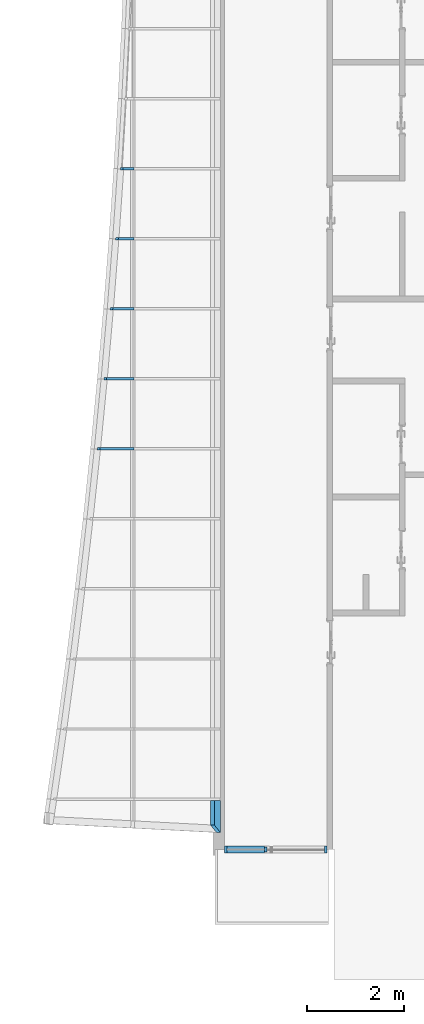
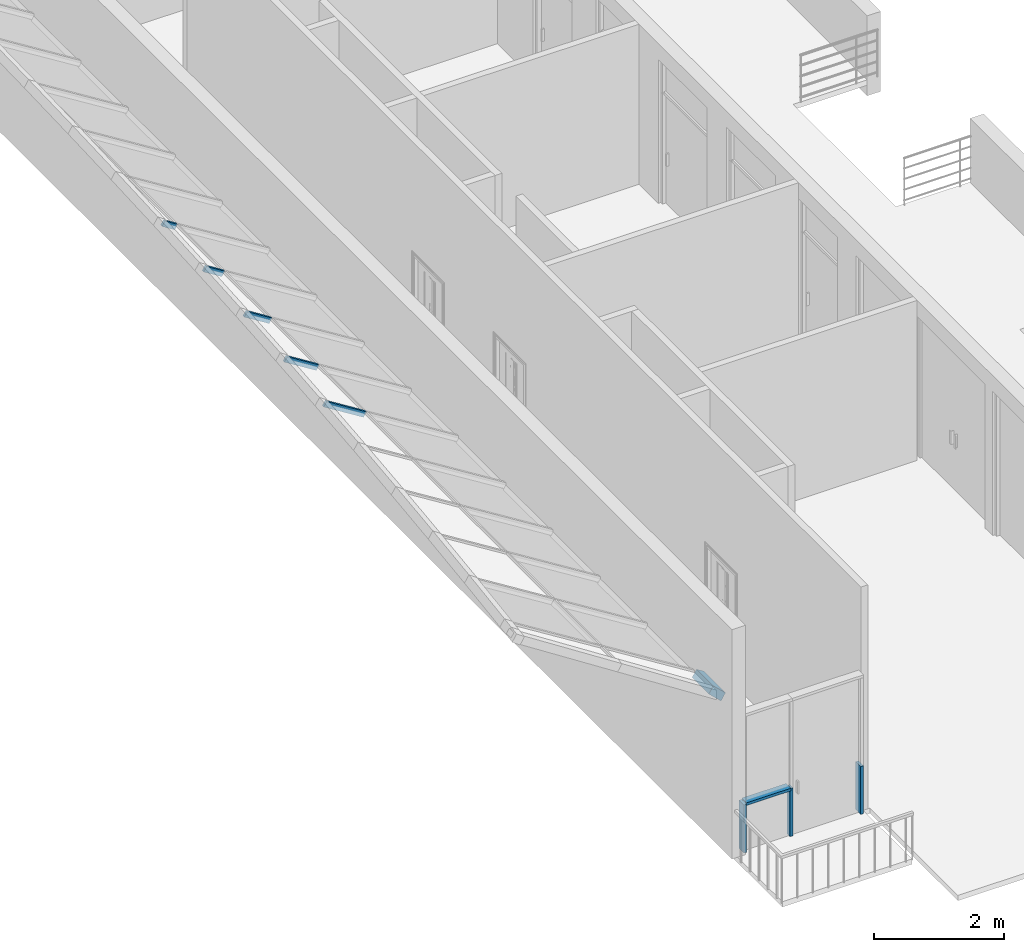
# One storey, part 9 of 33: 10 members, 2 elements without a shape of their own.
"""IFC2X3 building model written with IfcOpenShell, lengths in millimetres."""

import ifcopenshell
import ifcopenshell.guid

model = None  # the IFC model being written
_history = None  # IfcOwnerHistory: only IFC2X3 demands one
_inside = {}  # id of a spatial element -> (the spatial element, [elements in it])
_under = {}  # id of a project, library or spatial element -> (it, [spatial elements below it])
_declared = {}  # id of a project -> (the project, [libraries it declares])
_typed = {}  # id of a type object -> (the type object, [elements of that type])
_made_of = {}  # id of a material, layer set ... -> (it, [elements and type objects made of it])


def new_model(schema):
    """Start an empty IFC model of exactly this schema.

    Asked for "IFC4X3", IfcOpenShell would pick the latest addendum, in which some entities
    have other attributes; the version numbers below select the first issue.
    IFC2X3 requires an IfcOwnerHistory on every rooted entity: one is made here for all.
    """
    global model, _history
    if schema == "IFC4X3":
        model = ifcopenshell.file(schema_version=(4, 3, 0, 0))
    else:
        model = ifcopenshell.file(schema=schema)
    _inside.clear()
    _under.clear()
    _declared.clear()
    _typed.clear()
    _made_of.clear()
    _history = None
    if model.schema == "IFC2X3":
        org = make("IfcOrganization", Name="unknown")
        user = make(
            "IfcPersonAndOrganization",
            ThePerson=make("IfcPerson", FamilyName="unknown"),
            TheOrganization=org,
        )
        app = make(
            "IfcApplication",
            ApplicationDeveloper=org,
            Version="unknown",
            ApplicationFullName="unknown",
            ApplicationIdentifier="unknown",
        )
        _history = make(
            "IfcOwnerHistory",
            OwningUser=user,
            OwningApplication=app,
            ChangeAction="ADDED",
            CreationDate=0,
        )
    return model


def make(cls, **values):
    """One entity of the class cls with the attributes given. An attribute that is None is left unset."""
    return model.create_entity(
        cls, **{name: value for name, value in values.items() if value is not None}
    )


def entity(cls, *values):
    """Any entity or typed value of the class cls, its attributes in the order of the schema. None: left unset."""
    e = model.create_entity(cls)
    for i, value in enumerate(values):
        if value is not None:
            e[i] = value
    return e


def rooted(cls, **values):
    """An entity with a GlobalId (a new one), such as an element, a storey or a relation."""
    return make(cls, GlobalId=ifcopenshell.guid.new(), OwnerHistory=_history, **values)


def si_unit(unit_type, name, prefix=None):
    """IfcSIUnit, for example si_unit("LENGTHUNIT", "METRE", prefix="MILLI")."""
    return make("IfcSIUnit", UnitType=unit_type, Prefix=prefix, Name=name)


def converted_unit(unit_type, name, factor, base, dimensions=None, offset=None):
    """IfcConversionBasedUnit, such as the inch: factor (a typed value) times the base unit."""
    return make(
        "IfcConversionBasedUnit"
        if offset is None
        else "IfcConversionBasedUnitWithOffset",
        ConversionOffset=offset,
        Dimensions=None
        if dimensions is None
        else entity("IfcDimensionalExponents", *dimensions),
        UnitType=unit_type,
        Name=name,
        ConversionFactor=make(
            "IfcMeasureWithUnit", ValueComponent=factor, UnitComponent=base
        ),
    )


def derived_unit(unit_type, elements):
    """IfcDerivedUnit: a product of units, each with its exponent."""
    return make(
        "IfcDerivedUnit",
        Elements=[
            make("IfcDerivedUnitElement", Unit=unit, Exponent=power)
            for unit, power in elements
        ],
        UnitType=unit_type,
    )


def assignment(units):
    """IfcUnitAssignment: the units of a project."""
    return None if units is None else make("IfcUnitAssignment", Units=units)


def point(xyz):
    """IfcCartesianPoint."""
    return None if xyz is None else make("IfcCartesianPoint", Coordinates=xyz)


def direction(xyz):
    """IfcDirection."""
    return None if xyz is None else make("IfcDirection", DirectionRatios=xyz)


def frame(location, z_axis=None, x_axis=None):
    """IfcAxis2Placement3D, a coordinate frame: its origin and axes. An axis left out is left unset."""
    return make(
        "IfcAxis2Placement3D",
        Location=point(location),
        Axis=direction(z_axis),
        RefDirection=direction(x_axis),
    )


def frame_2d(location, x_axis=None):
    """IfcAxis2Placement2D, a coordinate frame in the plane: its origin and x axis."""
    return make(
        "IfcAxis2Placement2D", Location=point(location), RefDirection=direction(x_axis)
    )


def origin():
    """The frame at (0, 0, 0) with its axes left unset."""
    return frame((0.0, 0.0, 0.0))


def origin_2d_with_axis():
    """The frame at (0, 0) in the plane with the x axis (1, 0) written out."""
    return frame_2d((0.0, 0.0), x_axis=(1.0, 0.0))


def place(relative_to, where):
    """IfcLocalPlacement: puts the frame where relative to a parent placement (None: the world)."""
    return make(
        "IfcLocalPlacement", PlacementRelTo=relative_to, RelativePlacement=where
    )


def context(
    kind, dimensions, precision=None, world=None, true_north=None, identifier=None
):
    """IfcGeometricRepresentationContext, for example the 3D "Model" context."""
    return make(
        "IfcGeometricRepresentationContext",
        ContextIdentifier=identifier,
        ContextType=kind,
        CoordinateSpaceDimension=dimensions,
        Precision=precision,
        WorldCoordinateSystem=world,
        TrueNorth=true_north,
    )


def subcontext(parent, identifier, kind, view, scale=None):
    """IfcGeometricRepresentationSubContext, for example "Body" below "Model"."""
    return make(
        "IfcGeometricRepresentationSubContext",
        ContextIdentifier=identifier,
        ContextType=kind,
        ParentContext=parent,
        TargetScale=scale,
        TargetView=view,
    )


def project(units=None, contexts=None):
    """IfcProject with its units and contexts."""
    return rooted(
        "IfcProject",
        Name="project",
        RepresentationContexts=contexts,
        UnitsInContext=assignment(units),
    )


def spatial(cls, under=None, at=None, **own):
    """A site, building, storey or space (cls), placed at a placement, below another one or the project."""
    s = rooted(cls, ObjectPlacement=at, **own)
    if under is not None:
        _under.setdefault(under.id(), (under, []))[1].append(s)
    return s


def polyline(points):
    """IfcPolyline through the points."""
    return make("IfcPolyline", Points=[point(p) for p in points])


def profile(cls, at=None, kind="AREA", **sizes):
    """A parametric profile (cls). Its sizes go by their IFC names, for example OverallWidth=200.0."""
    return make(cls, ProfileType=kind, Position=at, **sizes)


def rectangle(**sizes):
    """IfcRectangleProfileDef."""
    return profile("IfcRectangleProfileDef", **sizes)


def extrude(swept, where, along, depth):
    """IfcExtrudedAreaSolid: the profile swept, set in the frame where, extruded along a direction by depth."""
    return make(
        "IfcExtrudedAreaSolid",
        SweptArea=swept,
        Position=where,
        ExtrudedDirection=direction(along),
        Depth=depth,
    )


def clip(a, b, op="DIFFERENCE"):
    """IfcBooleanClippingResult: the solid a cut by the half space b."""
    return make(
        "IfcBooleanClippingResult", Operator=op, FirstOperand=a, SecondOperand=b
    )


def halfspace(plane, agree):
    """IfcHalfSpaceSolid: all space on one side of the plane z = 0 of the frame plane."""
    return make(
        "IfcHalfSpaceSolid",
        BaseSurface=make("IfcPlane", Position=plane),
        AgreementFlag=agree,
    )


def bounded_halfspace(plane, agree, where, boundary):
    """IfcPolygonalBoundedHalfSpace: a half space limited to a polygon's prism."""
    return make(
        "IfcPolygonalBoundedHalfSpace",
        BaseSurface=make("IfcPlane", Position=plane),
        AgreementFlag=agree,
        Position=where,
        PolygonalBoundary=boundary,
    )


def shape(context_of_items, identifier, shape_type, items):
    """IfcShapeRepresentation: the items that make up one representation, for example the "Body"."""
    return make(
        "IfcShapeRepresentation",
        ContextOfItems=context_of_items,
        RepresentationIdentifier=identifier,
        RepresentationType=shape_type,
        Items=items,
    )


def source(mapping_origin, context_of_items, identifier, shape_type, items):
    """IfcRepresentationMap: a shape defined once, which mapped items show again and again."""
    return make(
        "IfcRepresentationMap",
        MappingOrigin=mapping_origin,
        MappedRepresentation=shape(context_of_items, identifier, shape_type, items),
    )


def transform(
    local_origin,
    x_axis=None,
    y_axis=None,
    z_axis=None,
    scale=None,
    scale2=None,
    scale3=None,
    uniform=True,
):
    """IfcCartesianTransformationOperator3D, or its non-uniform kind. x_axis, y_axis, z_axis: its Axis1, 2, 3."""
    if uniform:
        return make(
            "IfcCartesianTransformationOperator3D",
            Axis1=direction(x_axis),
            Axis2=direction(y_axis),
            LocalOrigin=point(local_origin),
            Scale=scale,
            Axis3=direction(z_axis),
        )
    return make(
        "IfcCartesianTransformationOperator3DnonUniform",
        Axis1=direction(x_axis),
        Axis2=direction(y_axis),
        LocalOrigin=point(local_origin),
        Scale=scale,
        Axis3=direction(z_axis),
        Scale2=scale2,
        Scale3=scale3,
    )


def mapped(mapping_source, mapping_target):
    """IfcMappedItem: shows the shape of a source again, moved by a transform."""
    return make(
        "IfcMappedItem", MappingSource=mapping_source, MappingTarget=mapping_target
    )


def material(Name=None, Category=None):
    """IfcMaterial."""
    return make("IfcMaterial", Name=Name, Category=Category)


def made_of(thing, what):
    """Note that an element or type object is made of a material, layer set ...; save() writes the relation."""
    if what is not None:
        _made_of.setdefault(what.id(), (what, []))[1].append(thing)
    return thing


def type_object(cls, material=None, **own):
    """A type object (cls), such as IfcWallType, which elements share."""
    return made_of(rooted(cls, **own), material)


def type_shapes(of_type, sources):
    """Give a type object the sources (RepresentationMaps) that its elements show as mapped items."""
    of_type.RepresentationMaps = sources


def element(
    cls,
    number,
    at=None,
    inside=None,
    cuts=None,
    type_object=None,
    material=None,
    context=None,
    identifier="Body",
    shape_type=None,
    held_by="IfcProductDefinitionShape",
    body=None,
    shapes=None,
    **own,
):
    """One element of the class cls, such as IfcWall. Its Tag is "e" and its number.

    at: its placement. inside: the storey or other place that contains it. cuts: it is an
    opening in that element (IfcRelVoidsElement). A single representation is given by context,
    identifier, shape_type and body (its items); several are given by shapes. held_by: the class
    of the entity that holds the representations. save() writes the other relations.
    """
    e = rooted(cls, Tag="e%d" % number, ObjectPlacement=at, **own)
    if body is not None:
        shapes = [shape(context, identifier, shape_type, body)]
    if shapes is not None:
        e.Representation = make(held_by, Representations=shapes)
    if inside is not None:
        _inside.setdefault(inside.id(), (inside, []))[1].append(e)
    if cuts is not None:
        rooted(
            "IfcRelVoidsElement", RelatingBuildingElement=cuts, RelatedOpeningElement=e
        )
    if type_object is not None:
        _typed.setdefault(type_object.id(), (type_object, []))[1].append(e)
    return made_of(e, material)


def aggregate(whole, parts):
    """IfcRelAggregates: a whole, such as a stair, and the parts it consists of."""
    return rooted("IfcRelAggregates", RelatingObject=whole, RelatedObjects=parts)


def save(model, path):
    """Write the relations noted so far, then the file.

    IfcRelAggregates (storeys below a building ...), IfcRelContainedInSpatialStructure (elements
    in a storey), IfcRelDefinesByType, IfcRelAssociatesMaterial and IfcRelDeclares: one each for
    every whole, place, type object, material and project.
    """
    for whole, parts in _under.values():
        aggregate(whole, parts)
    for where, things in _inside.values():
        rooted(
            "IfcRelContainedInSpatialStructure",
            RelatedElements=things,
            RelatingStructure=where,
        )
    for kind, things in _typed.values():
        rooted("IfcRelDefinesByType", RelatedObjects=things, RelatingType=kind)
    for what, things in _made_of.values():
        rooted("IfcRelAssociatesMaterial", RelatedObjects=things, RelatingMaterial=what)
    for by, libraries in _declared.values():
        rooted("IfcRelDeclares", RelatingContext=by, RelatedDefinitions=libraries)
    model.write(path)


model = new_model("IFC2X3")

# Units and contexts
model_context = context("Model", 3, precision=0.01, world=origin(), true_north=direction((6.12303176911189e-17, 1.0)))
body_context = subcontext(model_context, "Body", "Model", "MODEL_VIEW")
ifc_project = project(units=[si_unit("LENGTHUNIT", "METRE", prefix="MILLI"), si_unit("AREAUNIT", "SQUARE_METRE"), si_unit("VOLUMEUNIT", "CUBIC_METRE"), converted_unit("PLANEANGLEUNIT", "DEGREE", entity("IfcRatioMeasure", 0.0174532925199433), si_unit("PLANEANGLEUNIT", "RADIAN"), dimensions=[0, 0, 0, 0, 0, 0, 0]), si_unit("MASSUNIT", "GRAM", prefix="KILO"), derived_unit("MASSDENSITYUNIT", [(si_unit("MASSUNIT", "GRAM", prefix="KILO"), 1), (si_unit("LENGTHUNIT", "METRE"), -3)]), si_unit("TIMEUNIT", "SECOND"), si_unit("FREQUENCYUNIT", "HERTZ"), si_unit("THERMODYNAMICTEMPERATUREUNIT", "DEGREE_CELSIUS"), derived_unit("THERMALTRANSMITTANCEUNIT", [(si_unit("MASSUNIT", "GRAM", prefix="KILO"), 1), (si_unit("THERMODYNAMICTEMPERATUREUNIT", "KELVIN"), -1), (si_unit("TIMEUNIT", "SECOND"), -3)]), derived_unit("VOLUMETRICFLOWRATEUNIT", [(si_unit("LENGTHUNIT", "METRE"), 3), (si_unit("TIMEUNIT", "SECOND"), -1)]), si_unit("ELECTRICCURRENTUNIT", "AMPERE"), si_unit("ELECTRICVOLTAGEUNIT", "VOLT"), si_unit("POWERUNIT", "WATT"), si_unit("FORCEUNIT", "NEWTON", prefix="KILO"), si_unit("ILLUMINANCEUNIT", "LUX"), si_unit("LUMINOUSFLUXUNIT", "LUMEN"), si_unit("LUMINOUSINTENSITYUNIT", "CANDELA"), derived_unit("USERDEFINED", [(si_unit("MASSUNIT", "GRAM", prefix="KILO"), -1), (si_unit("LENGTHUNIT", "METRE"), -2), (si_unit("TIMEUNIT", "SECOND"), 3), (si_unit("LUMINOUSFLUXUNIT", "LUMEN"), 1)]), derived_unit("LINEARVELOCITYUNIT", [(si_unit("LENGTHUNIT", "METRE"), 1), (si_unit("TIMEUNIT", "SECOND"), -1)]), si_unit("PRESSUREUNIT", "PASCAL"), derived_unit("USERDEFINED", [(si_unit("LENGTHUNIT", "METRE"), -2), (si_unit("MASSUNIT", "GRAM", prefix="KILO"), 1), (si_unit("TIMEUNIT", "SECOND"), -2)])], contexts=[model_context])

# Site, building, storey
site_placement = place(None, origin())
site = spatial("IfcSite", under=ifc_project, at=site_placement, Name="表面", CompositionType="ELEMENT")
building_placement = place(site_placement, origin())
building = spatial("IfcBuilding", under=site, at=building_placement, CompositionType="ELEMENT")
storey_placement = place(building_placement, frame((0.0, 0.0, 6000.0)))
storey = spatial("IfcBuildingStorey", under=building, at=storey_placement, Name="3F", CompositionType="ELEMENT", Elevation=6000.00000000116)

# Curtain wall, members
curtain_wall_type_1 = type_object("IfcCurtainWallType", Name="幕墙:幕墙 2", PredefinedType="NOTDEFINED")
curtain_wall_1_placement = place(storey_placement, frame((0.0, 0.0, -6000.0)))
curtain_wall_1 = element("IfcCurtainWall", 1, at=curtain_wall_1_placement, inside=storey, type_object=curtain_wall_type_1, Name="幕墙:幕墙 2", ObjectType="幕墙:幕墙 2")
ifc_material_1 = material(Name="金属 - 铝")
member_type_1 = type_object("IfcMemberType", Name="50 x 150mm", PredefinedType="MEMBER")
shared_shape_1 = source(origin(), body_context, "Body", "SweptSolid", [
    extrude(rectangle(XDim=150.0, YDim=50.0, at=origin_2d_with_axis()), frame((-25.0, 0.0, -900.0), z_axis=(0.0, 0.0, 1.0), x_axis=(0.0, -1.0, 0.0)), (0.0, 0.0, 1.0), 900.0),
])
type_shapes(member_type_1, [shared_shape_1])
member_1_placement = place(storey_placement, frame((-12190.2499126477, -29416.868426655, 0.0), z_axis=(0.0, 0.0, -1.0), x_axis=(1.0, 0.0, 0.0)))
member_1 = element("IfcMember", 2, at=member_1_placement, type_object=member_type_1, material=ifc_material_1, Name="矩形竖梃:50 x 150mm", ObjectType="50 x 150mm", context=body_context, shape_type="MappedRepresentation", body=[
    mapped(shared_shape_1, transform((0.0, 0.0, 0.0), scale=1.0)),
])
member_type_2 = type_object("IfcMemberType", Name="50 x 100mm", PredefinedType="MEMBER")
shared_shape_2 = source(origin(), body_context, "Body", "SweptSolid", [
    extrude(rectangle(XDim=100.0, YDim=50.0, at=origin_2d_with_axis()), frame((0.0, 0.0, -900.0), z_axis=(0.0, 0.0, 1.0), x_axis=(0.0, -1.0, 0.0)), (0.0, 0.0, 1.0), 900.0),
])
type_shapes(member_type_2, [shared_shape_2])
member_2_placement = place(storey_placement, frame((-13450.2499126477, -29416.868426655, 0.0), z_axis=(0.0, 0.0, -1.0), x_axis=(1.0, 0.0, 0.0)))
member_2 = element("IfcMember", 3, at=member_2_placement, type_object=member_type_2, material=ifc_material_1, Name="矩形竖梃:50 x 100mm", ObjectType="50 x 100mm", context=body_context, shape_type="MappedRepresentation", body=[
    mapped(shared_shape_2, transform((0.0, 0.0, 0.0), scale=1.0)),
])
member_type_3 = type_object("IfcMemberType", Name="50 x 150mm", PredefinedType="MEMBER")
shared_shape_3 = source(origin(), body_context, "Body", "SweptSolid", [
    extrude(rectangle(XDim=150.0, YDim=50.0, at=origin_2d_with_axis()), frame((-25.0, 0.0, -900.0), z_axis=(0.0, 0.0, 1.0), x_axis=(0.0, -1.0, 0.0)), (0.0, 0.0, 1.0), 900.0),
])
type_shapes(member_type_3, [shared_shape_3])
member_3_placement = place(storey_placement, frame((-14310.2499126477, -29416.868426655, 900.0), z_axis=(0.0, 0.0, 1.0), x_axis=(-1.0, 0.0, 0.0)))
member_3 = element("IfcMember", 4, at=member_3_placement, type_object=member_type_3, material=ifc_material_1, Name="矩形竖梃:50 x 150mm", ObjectType="50 x 150mm", context=body_context, shape_type="MappedRepresentation", body=[
    mapped(shared_shape_3, transform((0.0, 0.0, 0.0), scale=1.0)),
])
member_type_4 = type_object("IfcMemberType", Name="50 x 150mm", PredefinedType="MEMBER")
shared_shape_4 = source(origin(), body_context, "Body", "SweptSolid", [
    extrude(rectangle(XDim=150.0, YDim=50.0, at=origin_2d_with_axis()), frame((0.0, 0.0, -785.0), z_axis=(0.0, 0.0, 1.0), x_axis=(0.0, -1.0, 0.0)), (0.0, 0.0, 1.0), 784.999999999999),
])
type_shapes(member_type_4, [shared_shape_4])
member_4_placement = place(storey_placement, frame((-13475.2499126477, -29416.868426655, 900.0), z_axis=(1.0, 0.0, 0.0), x_axis=(0.0, 0.0, 1.0)))
member_4 = element("IfcMember", 5, at=member_4_placement, type_object=member_type_4, material=ifc_material_1, Name="矩形竖梃:50 x 150mm", ObjectType="50 x 150mm", context=body_context, shape_type="MappedRepresentation", body=[
    mapped(shared_shape_4, transform((0.0, 0.0, 0.0), scale=1.0)),
])
aggregate(curtain_wall_1, [member_1, member_2, member_3, member_4])

curtain_wall_type_2 = type_object("IfcCurtainWallType", Name="幕墙系统:1450 x 2100mm", PredefinedType="NOTDEFINED")
curtain_wall_2_placement = place(storey_placement, frame((0.0, 0.0, -6000.0)))
curtain_wall_2 = element("IfcCurtainWall", 6, at=curtain_wall_2_placement, inside=storey, type_object=curtain_wall_type_2, Name="幕墙系统:1450 x 2100mm", ObjectType="幕墙系统:1450 x 2100mm")
ifc_material_2 = material(Name="木质 - 木材")
member_type_5 = type_object("IfcMemberType", Name="200 x 150mm", PredefinedType="MEMBER")
shared_shape_5 = source(origin(), body_context, "Body", "Clipping", [
    clip(extrude(rectangle(XDim=150.0, YDim=150.0, at=origin_2d_with_axis()), frame((-75.0, 0.0, -670.970519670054), z_axis=(0.0, 0.0, 1.0), x_axis=(0.0, -1.0, 0.0)), (0.0, 0.0, 1.0), 670.970519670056), halfspace(frame((0.0, -304.8, 0.0), z_axis=(-0.722634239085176, 0.0, 0.691230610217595), x_axis=(-0.691230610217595, 0.0, -0.722634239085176)), False)),
])
type_shapes(member_type_5, [shared_shape_5])
member_5_placement = place(storey_placement, frame((-14430.2499126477, -29066.868426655, 2713.21784202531), z_axis=(0.0, -1.0, 0.0), x_axis=(0.848048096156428, 0.0, -0.529919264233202)))
member_5 = element("IfcMember", 7, at=member_5_placement, type_object=member_type_5, material=ifc_material_2, Name="矩形竖梃:200 x 150mm", ObjectType="200 x 150mm", context=body_context, shape_type="MappedRepresentation", body=[
    mapped(shared_shape_5, transform((0.0, 0.0, 0.0), scale=1.0)),
])
member_type_6 = type_object("IfcMemberType", Name="50 x 100mm", PredefinedType="MEMBER")
shared_shape_6 = source(origin(), body_context, "Body", "Clipping", [
    clip(clip(extrude(rectangle(XDim=100.0, YDim=50.0, at=origin_2d_with_axis()), frame((0.0, 0.0, -413.770527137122), z_axis=(0.0, 0.0, 1.0), x_axis=(0.0, -1.0, 0.0)), (0.0, 0.0, 1.0), 265.309430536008), bounded_halfspace(frame((11.3589420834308, 75.0, -149.571510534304), z_axis=(-0.0811339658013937, 0.0, 0.996703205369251), x_axis=(0.996703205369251, 0.0, 0.0811339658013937)), False, frame((0.0, 0.0, -413.770527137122), z_axis=(0.0, 0.0, 1.0), x_axis=(0.0, -1.0, 0.0)), polyline([(-50.0, 25.0), (-50.0, 11.3589420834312), (50.0, 11.3589420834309), (50.0, 25.0), (-50.0, 25.0)]))), bounded_halfspace(frame((-1439.45287942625, 75.0, -251.837209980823), z_axis=(-0.0703141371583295, 0.0, 0.997524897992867), x_axis=(0.997524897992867, 0.0, 0.0703141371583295)), False, frame((0.0, 0.0, -413.770527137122), z_axis=(0.0, 0.0, 1.0), x_axis=(0.0, -1.0, 0.0)), polyline([(-50.0, 11.358942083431), (-50.0, -25.0), (50.0, -25.0), (50.0, 11.3589420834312), (-50.0, 11.358942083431)]))),
])
type_shapes(member_type_6, [shared_shape_6])
placement = place(building_placement, frame((0.0, 0.0, 9000.0)))
member_6_placement = place(placement, frame((-16562.0482223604, -15320.8979069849, 1045.31327021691), z_axis=(-0.848048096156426, 0.0, 0.529919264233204), x_axis=(0.0, -1.0, 0.0)))
member_6 = element("IfcMember", 8, at=member_6_placement, type_object=member_type_6, material=ifc_material_1, Name="矩形竖梃:50 x 100mm", ObjectType="50 x 100mm", context=body_context, shape_type="MappedRepresentation", body=[
    mapped(shared_shape_6, transform((0.0, 0.0, 0.0), scale=1.0)),
])
member_type_7 = type_object("IfcMemberType", Name="50 x 100mm", PredefinedType="MEMBER")
shared_shape_7 = source(origin(), body_context, "Body", "Clipping", [
    clip(clip(extrude(rectangle(XDim=100.0, YDim=50.0, at=origin_2d_with_axis()), frame((0.0, 0.0, -531.803909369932), z_axis=(0.0, 0.0, 1.0), x_axis=(0.0, -1.0, 0.0)), (0.0, 0.0, 1.0), 383.47423162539), bounded_halfspace(frame((12.9813634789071, 75.0, -149.439441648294), z_axis=(-0.091945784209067, 0.0, 0.995764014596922), x_axis=(0.995764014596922, 0.0, 0.091945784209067)), False, frame((0.0, 0.0, -531.803909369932), z_axis=(0.0, 0.0, 1.0), x_axis=(0.0, -1.0, 0.0)), polyline([(-50.0, 25.0), (-50.0, 12.9813634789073), (50.0, 12.9813634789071), (50.0, 25.0), (-50.0, 25.0)]))), bounded_halfspace(frame((-1437.82990512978, 75.0, -267.538863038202), z_axis=(-0.0811339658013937, 0.0, 0.996703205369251), x_axis=(0.996703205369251, 0.0, 0.0811339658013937)), False, frame((0.0, 0.0, -531.803909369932), z_axis=(0.0, 0.0, 1.0), x_axis=(0.0, -1.0, 0.0)), polyline([(-50.0, 12.9813634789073), (-50.0, -25.0), (50.0, -25.0), (50.0, 12.9813634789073), (-50.0, 12.9813634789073)]))),
])
type_shapes(member_type_7, [shared_shape_7])
member_7_placement = place(placement, frame((-16662.1462074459, -16770.8979069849, 1107.86143328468), z_axis=(-0.848048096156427, 0.0, 0.529919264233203), x_axis=(0.0, -1.0, 0.0)))
member_7 = element("IfcMember", 9, at=member_7_placement, type_object=member_type_7, material=ifc_material_1, Name="矩形竖梃:50 x 100mm", ObjectType="50 x 100mm", context=body_context, shape_type="MappedRepresentation", body=[
    mapped(shared_shape_7, transform((0.0, 0.0, 0.0), scale=1.0)),
])
member_type_8 = type_object("IfcMemberType", Name="50 x 100mm", PredefinedType="MEMBER")
shared_shape_8 = source(origin(), body_context, "Body", "Clipping", [
    clip(clip(extrude(rectangle(XDim=100.0, YDim=50.0, at=origin_2d_with_axis()), frame((0.0, 0.0, -665.692446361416), z_axis=(0.0, 0.0, 1.0), x_axis=(0.0, -1.0, 0.0)), (0.0, 0.0, 1.0), 517.476707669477), bounded_halfspace(frame((14.6025040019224, 75.0, -149.28975052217), z_axis=(-0.102748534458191, 0.0, 0.994707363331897), x_axis=(0.994707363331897, 0.0, 0.102748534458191)), False, frame((0.0, 0.0, -665.692446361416), z_axis=(0.0, 0.0, 1.0), x_axis=(0.0, -1.0, 0.0)), polyline([(-50.0, 25.0), (-50.0, 14.6025040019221), (50.0, 14.6025040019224), (50.0, 25.0), (-50.0, 25.0)]))), bounded_halfspace(frame((-1436.20813236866, 75.0, -283.253139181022), z_axis=(-0.091945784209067, 0.0, 0.995764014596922), x_axis=(0.995764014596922, 0.0, 0.091945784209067)), False, frame((0.0, 0.0, -665.692446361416), z_axis=(0.0, 0.0, 1.0), x_axis=(0.0, -1.0, 0.0)), polyline([(-50.0, 14.6025040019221), (-50.0, -25.0), (50.0, -25.0), (50.0, 14.6025040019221), (-50.0, 14.6025040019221)]))),
])
type_shapes(member_type_8, [shared_shape_8])
member_8_placement = place(placement, frame((-16775.6901263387, -18220.8979069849, 1178.81154829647), z_axis=(-0.848048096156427, 0.0, 0.529919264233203), x_axis=(0.0, -1.0, 0.0)))
member_8 = element("IfcMember", 10, at=member_8_placement, type_object=member_type_8, material=ifc_material_1, Name="矩形竖梃:50 x 100mm", ObjectType="50 x 100mm", context=body_context, shape_type="MappedRepresentation", body=[
    mapped(shared_shape_8, transform((0.0, 0.0, 0.0), scale=1.0)),
])
member_type_9 = type_object("IfcMemberType", Name="50 x 100mm", PredefinedType="MEMBER")
shared_shape_9 = source(origin(), body_context, "Body", "Clipping", [
    clip(clip(extrude(rectangle(XDim=100.0, YDim=50.0, at=origin_2d_with_axis()), frame((0.0, 0.0, -815.470542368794), z_axis=(0.0, 0.0, 1.0), x_axis=(0.0, -1.0, 0.0)), (0.0, 0.0, 1.0), 667.35122723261), bounded_halfspace(frame((16.2222052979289, 75.0, -149.122443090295), z_axis=(-0.113541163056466, 0.0, 0.993533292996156), x_axis=(0.993533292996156, 0.0, 0.113541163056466)), False, frame((0.0, 0.0, -815.470542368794), z_axis=(0.0, 0.0, 1.0), x_axis=(0.0, -1.0, 0.0)), polyline([(-50.0, 25.0), (-50.0, 16.2222052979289), (50.0, 16.2222052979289), (50.0, 25.0), (-50.0, 25.0)]))), bounded_halfspace(frame((-1434.58771983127, 75.0, -298.984200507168), z_axis=(-0.102748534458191, 0.0, 0.994707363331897), x_axis=(0.994707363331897, 0.0, 0.102748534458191)), False, frame((0.0, 0.0, -815.470542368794), z_axis=(0.0, 0.0, 1.0), x_axis=(0.0, -1.0, 0.0)), polyline([(-50.0, 16.2222052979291), (-50.0, -25.0), (50.0, -25.0), (50.0, 16.2222052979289), (-50.0, 16.2222052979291)]))),
])
type_shapes(member_type_9, [shared_shape_9])
member_9_placement = place(placement, frame((-16902.7091555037, -19670.8979069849, 1258.18184673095), z_axis=(-0.848048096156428, 0.0, 0.529919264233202), x_axis=(0.0, -1.0, 0.0)))
member_9 = element("IfcMember", 11, at=member_9_placement, type_object=member_type_9, material=ifc_material_1, Name="矩形竖梃:50 x 100mm", ObjectType="50 x 100mm", context=body_context, shape_type="MappedRepresentation", body=[
    mapped(shared_shape_9, transform((0.0, 0.0, 0.0), scale=1.0)),
])
member_type_10 = type_object("IfcMemberType", Name="50 x 100mm", PredefinedType="MEMBER")
shared_shape_10 = source(origin(), body_context, "Body", "Clipping", [
    clip(clip(extrude(rectangle(XDim=100.0, YDim=50.0, at=origin_2d_with_axis()), frame((0.0, 0.0, -981.176802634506), z_axis=(0.0, 0.0, 1.0), x_axis=(0.0, -1.0, 0.0)), (0.0, 0.0, 1.0), 833.136347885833), bounded_halfspace(frame((17.8403097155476, 75.0, -148.937525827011), z_axis=(-0.124322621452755, 0.0, 0.992241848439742), x_axis=(0.992241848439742, 0.0, 0.124322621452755)), False, frame((0.0, 0.0, -981.176802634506), z_axis=(0.0, 0.0, 1.0), x_axis=(0.0, -1.0, 0.0)), polyline([(-50.0, 25.0), (-50.0, 17.8403097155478), (50.0, 17.8403097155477), (50.0, 25.0), (-50.0, 25.0)]))), bounded_halfspace(frame((-1432.96882554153, 75.0, -314.736254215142), z_axis=(-0.113541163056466, 0.0, 0.993533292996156), x_axis=(0.993533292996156, 0.0, 0.113541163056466)), False, frame((0.0, 0.0, -981.176802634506), z_axis=(0.0, 0.0, 1.0), x_axis=(0.0, -1.0, 0.0)), polyline([(-50.0, 17.8403097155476), (-50.0, -25.0), (50.0, -25.0), (50.0, 17.840309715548), (-50.0, 17.8403097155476)]))),
])
type_shapes(member_type_10, [shared_shape_10])
member_10_placement = place(placement, frame((-17043.2360340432, -21120.8979069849, 1345.99278624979), z_axis=(-0.848048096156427, 0.0, 0.529919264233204), x_axis=(0.0, -1.0, 0.0)))
member_10 = element("IfcMember", 12, at=member_10_placement, type_object=member_type_10, material=ifc_material_1, Name="矩形竖梃:50 x 100mm", ObjectType="50 x 100mm", context=body_context, shape_type="MappedRepresentation", body=[
    mapped(shared_shape_10, transform((0.0, 0.0, 0.0), scale=1.0)),
])
aggregate(curtain_wall_2, [member_5, member_6, member_7, member_8, member_9, member_10])

save(model, "model.ifc")
